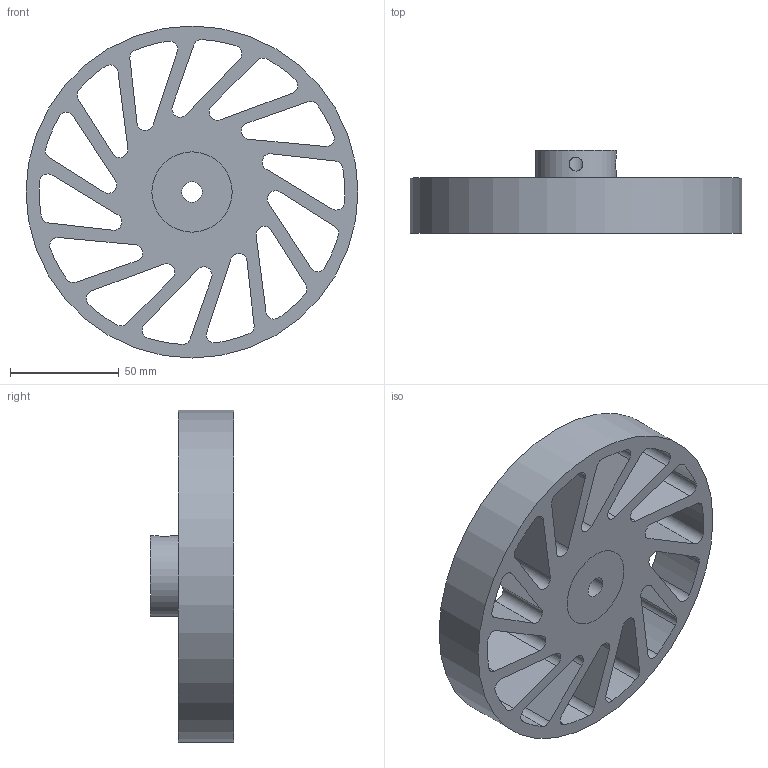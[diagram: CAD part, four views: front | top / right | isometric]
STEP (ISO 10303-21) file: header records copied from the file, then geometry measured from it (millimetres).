
FILE_DESCRIPTION(/* description */ (''),/* implementation_level */ '2;1');
FILE_NAME(/* name */ 'NCW-540-XXX-YYY.stp',/* time_stamp */ '2023-02-02T15:33:22-06:00',/* author */ ('AG'),/* organization */ ('Meridian Laboratory'),/* preprocessor_version */ 'ST-DEVELOPER v18.1',/* originating_system */ 'Autodesk Inventor 2022',/* authorisation */ '');
FILE_SCHEMA (('AUTOMOTIVE_DESIGN { 1 0 10303 214 3 1 1 }'));
Length unit declared in the file: inch
Products named in the file (1): NCW-540
Bounding box: 152.4 x 38.1 x 152.4 mm (x, y, z)
Volume: 269730.9 mm3; surface area: 78296.3 mm2
Topology: 2 solids, 2 shells, 94 faces, 276 edges, 186 vertices
Faces by surface type: cylinder 62, plane 32
Full cylindrical faces by diameter (mm): 6.35 x2, 9.538 x1, 36.83 x2, 152.4 x1
Entity records: 3518 total; most frequent: CARTESIAN_POINT 697, DIRECTION 576, ORIENTED_EDGE 552, EDGE_CURVE 276, AXIS2_PLACEMENT_3D 215, VERTEX_POINT 186, LINE 146, VECTOR 146
